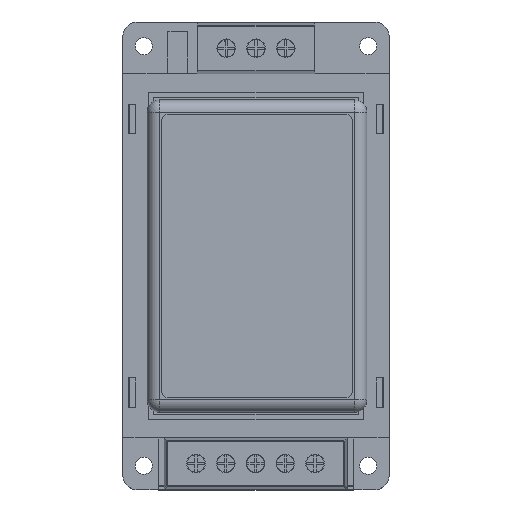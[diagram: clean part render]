
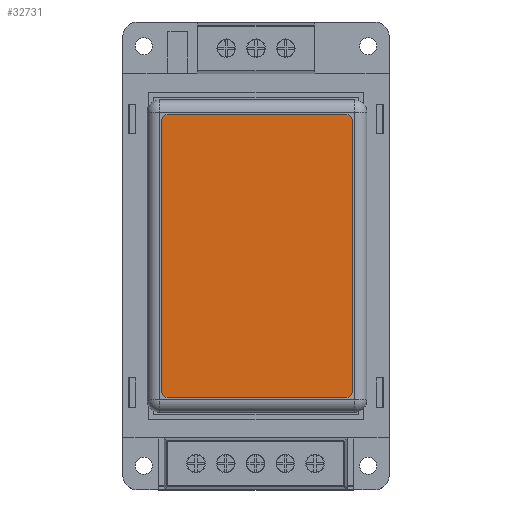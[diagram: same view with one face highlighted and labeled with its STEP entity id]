
A CAD part, top view. The second image highlights one B-rep face of the part: STEP entity #32731.
In plain terms, the highlighted planar face has unit normal (0, 0, 1).
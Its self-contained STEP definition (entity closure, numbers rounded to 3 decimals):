
#31938=CARTESIAN_POINT('',(-27.5,18.15,21.2));
#31939=DIRECTION('',(0.,0.,1.));
#31940=DIRECTION('',(0.,1.,0.));
#31941=AXIS2_PLACEMENT_3D('',#31938,#31939,#31940);
#31946=DIRECTION('',(-1.,0.,0.));
#31947=VECTOR('',#31946,55.);
#31948=CARTESIAN_POINT('',(27.5,19.65,21.2));
#31949=LINE('',#31948,#31947);
#31953=CARTESIAN_POINT('',(27.5,18.15,21.2));
#31954=DIRECTION('',(0.,0.,1.));
#31955=DIRECTION('',(1.,0.,0.));
#31956=AXIS2_PLACEMENT_3D('',#31953,#31954,#31955);
#31961=DIRECTION('',(0.,1.,0.));
#31962=VECTOR('',#31961,36.3);
#31963=CARTESIAN_POINT('',(29.,-18.15,21.2));
#31964=LINE('',#31963,#31962);
#31968=CARTESIAN_POINT('',(27.5,-18.15,21.2));
#31969=DIRECTION('',(0.,0.,1.));
#31970=DIRECTION('',(0.,-1.,0.));
#31971=AXIS2_PLACEMENT_3D('',#31968,#31969,#31970);
#31976=DIRECTION('',(1.,0.,0.));
#31977=VECTOR('',#31976,55.);
#31978=CARTESIAN_POINT('',(-27.5,-19.65,21.2));
#31979=LINE('',#31978,#31977);
#31983=CARTESIAN_POINT('',(-27.5,-18.15,21.2));
#31984=DIRECTION('',(0.,0.,1.));
#31985=DIRECTION('',(-1.,0.,0.));
#31986=AXIS2_PLACEMENT_3D('',#31983,#31984,#31985);
#31991=DIRECTION('',(0.,-1.,0.));
#31992=VECTOR('',#31991,36.3);
#31993=CARTESIAN_POINT('',(-29.,18.15,21.2));
#31994=LINE('',#31993,#31992);
#32242=CARTESIAN_POINT('',(-27.5,19.65,21.2));
#32243=CARTESIAN_POINT('',(-29.,18.15,21.2));
#32244=VERTEX_POINT('',#32242);
#32245=VERTEX_POINT('',#32243);
#32246=CARTESIAN_POINT('',(-29.,-18.15,21.2));
#32247=VERTEX_POINT('',#32246);
#32248=CARTESIAN_POINT('',(-27.5,-19.65,21.2));
#32249=VERTEX_POINT('',#32248);
#32250=CARTESIAN_POINT('',(27.5,-19.65,21.2));
#32251=VERTEX_POINT('',#32250);
#32252=CARTESIAN_POINT('',(29.,-18.15,21.2));
#32253=VERTEX_POINT('',#32252);
#32254=CARTESIAN_POINT('',(29.,18.15,21.2));
#32255=VERTEX_POINT('',#32254);
#32256=CARTESIAN_POINT('',(27.5,19.65,21.2));
#32257=VERTEX_POINT('',#32256);
#32716=CARTESIAN_POINT('',(0.,0.,21.2));
#32717=DIRECTION('',(0.,0.,1.));
#32718=DIRECTION('',(1.,0.,0.));
#32719=AXIS2_PLACEMENT_3D('',#32716,#32717,#32718);
#32720=PLANE('',#32719);
#32721=ORIENTED_EDGE('',*,*,#32612,.F.);
#32722=ORIENTED_EDGE('',*,*,#32627,.F.);
#32723=ORIENTED_EDGE('',*,*,#32641,.F.);
#32724=ORIENTED_EDGE('',*,*,#32655,.F.);
#32725=ORIENTED_EDGE('',*,*,#32669,.F.);
#32726=ORIENTED_EDGE('',*,*,#32683,.F.);
#32727=ORIENTED_EDGE('',*,*,#32697,.F.);
#32728=ORIENTED_EDGE('',*,*,#32710,.F.);
#32729=EDGE_LOOP('',(#32721,#32722,#32723,#32724,#32725,#32726,#32727,#32728));
#32730=FACE_OUTER_BOUND('',#32729,.F.);
#31942=CIRCLE('',#31941,1.5);
#31957=CIRCLE('',#31956,1.5);
#31972=CIRCLE('',#31971,1.5);
#31987=CIRCLE('',#31986,1.5);
#32612=EDGE_CURVE('',#32244,#32245,#31942,.T.);
#32627=EDGE_CURVE('',#32257,#32244,#31949,.T.);
#32641=EDGE_CURVE('',#32255,#32257,#31957,.T.);
#32655=EDGE_CURVE('',#32253,#32255,#31964,.T.);
#32669=EDGE_CURVE('',#32251,#32253,#31972,.T.);
#32683=EDGE_CURVE('',#32249,#32251,#31979,.T.);
#32697=EDGE_CURVE('',#32247,#32249,#31987,.T.);
#32710=EDGE_CURVE('',#32245,#32247,#31994,.T.);
#32731=ADVANCED_FACE('',(#32730),#32720,.T.);
